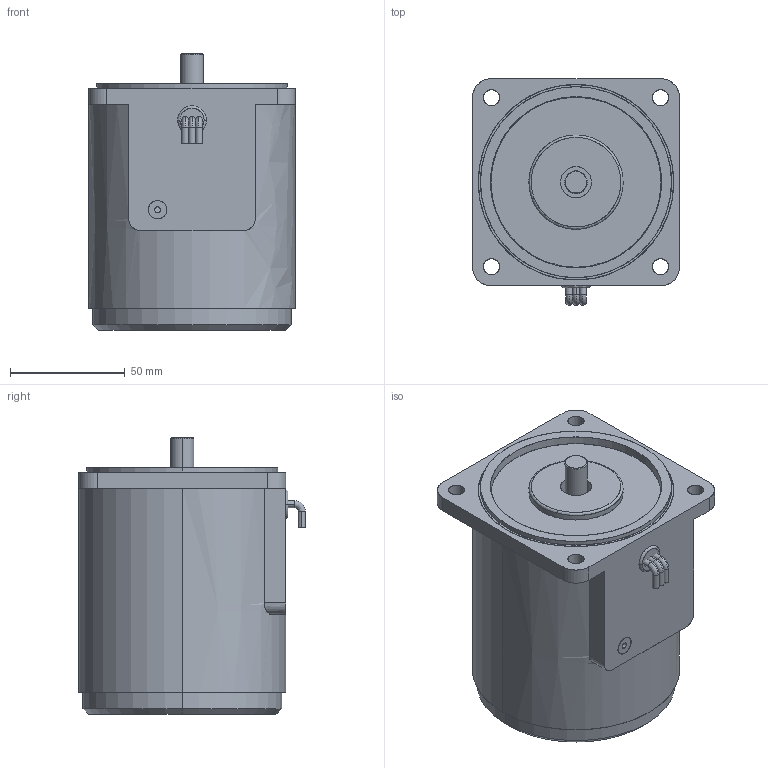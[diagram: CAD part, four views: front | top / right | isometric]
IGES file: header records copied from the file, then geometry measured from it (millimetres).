
Start section: SolidWorks IGES file using analytic representation for surfaces
Bounding box: 90 x 98.5 x 120.5 mm (x, y, z)
Surface area: 90721.3 mm2 (no closed solid volume)
Topology: 0 solids, 0 shells, 107 faces, 2512 edges, 2512 vertices
Faces by surface type: revolution 60, bspline 47
